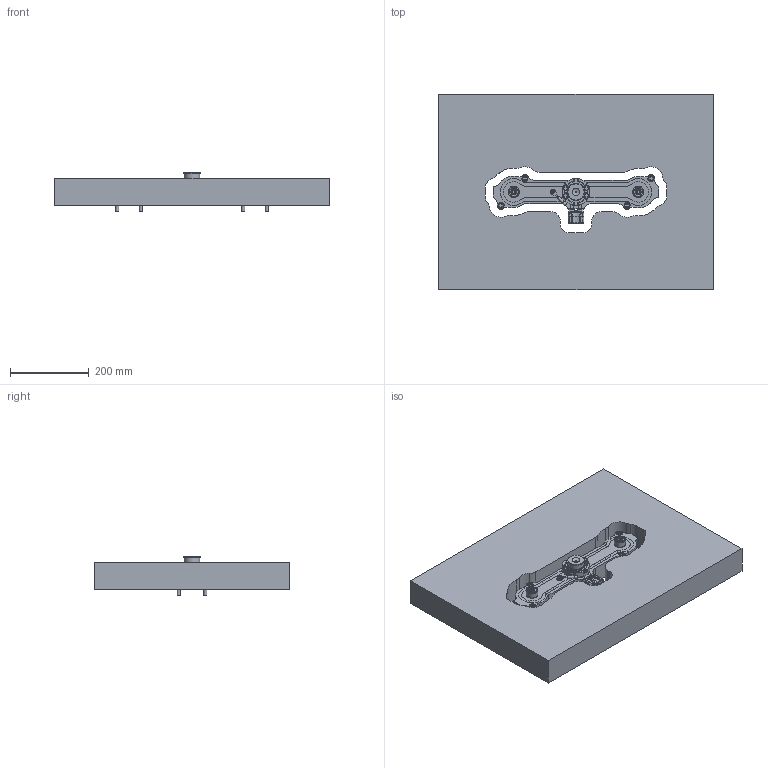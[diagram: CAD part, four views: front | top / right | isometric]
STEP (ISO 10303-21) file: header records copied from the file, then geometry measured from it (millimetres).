
FILE_DESCRIPTION(('STEP AP214'),'1');
FILE_NAME('D:/Trabalho/Standa_library/MF_160X160_BIM18.step','2010-05-19T09:08:10',(' '),(' '),'Spatial InterOp 3D',' ',' ');
FILE_SCHEMA(('automotive_design'));
Length unit declared in the file: millimetre
Products named in the file (33): @28; @32; @34; @36; @38; @40; @42; @44; @46; @48; @50; @52; @54; @56; @58; @60; @62; @64; @66; @68; @70; @72; @74; @76; @78; @80; @82; @84; @86; @88; @90; @92; @94
Bounding box: 696 x 496 x 99 mm (x, y, z)
Volume: 21873531.1 mm3; surface area: 1128472.7 mm2
Topology: 33 solids, 33 shells, 1544 faces, 3784 edges, 2368 vertices
Faces by surface type: plane 628, cylinder 342, cone 254, torus 166, bspline 119, extrusion 25, sphere 8, revolution 2
Full cylindrical faces by diameter (mm): 3.3 x2, 4 x3, 4.2 x1, 4.5 x1, 5 x5, 6 x10, 6.5 x4, 6.7 x10, 6.8 x1, 7 x1, 7.3 x1, 7.5 x1, 8 x17, 9 x4, 9.5 x2, 10 x11, 11 x3, 12 x2, 13 x8, 14 x2, 15 x4, 22.5 x1, 26 x2, 29.2 x3, 40 x1, 41 x1, 42.5 x1, 70 x1
Entity records: 63796 total; most frequent: CARTESIAN_POINT 15909, DIRECTION 7370, ORIENTED_EDGE 7062, EDGE_CURVE 3531, AXIS2_PLACEMENT_3D 2876, VERTEX_POINT 2324, EDGE_LOOP 1867, FACE_OUTER_BOUND 1681
